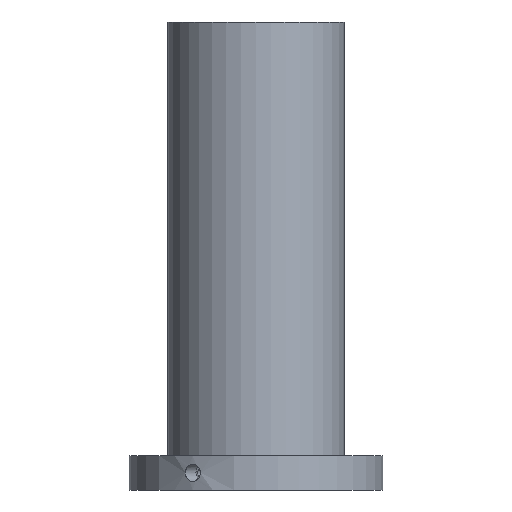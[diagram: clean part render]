
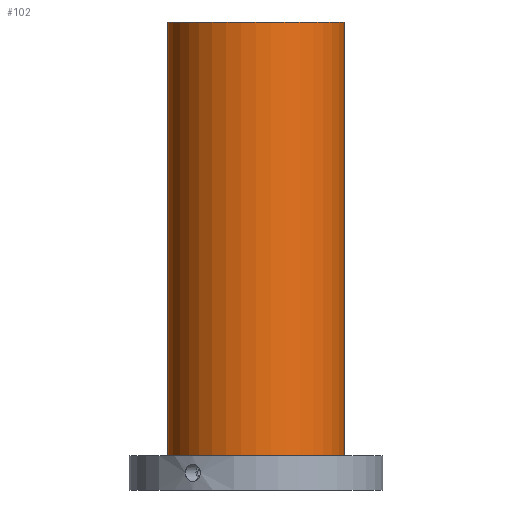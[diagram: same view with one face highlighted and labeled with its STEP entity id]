
A CAD part, front view. The second image highlights one B-rep face of the part: STEP entity #102.
In plain terms, the highlighted cylindrical face has radius 41 mm (diameter 82 mm), a full revolution.
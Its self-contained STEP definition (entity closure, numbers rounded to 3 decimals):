
#102=ADVANCED_FACE('',(#136,#137),#119,.T.);
#119=CYLINDRICAL_SURFACE('',#371,41.);
#136=FACE_BOUND('',#188,.T.);
#137=FACE_BOUND('',#189,.T.);
#188=EDGE_LOOP('',(#240));
#189=EDGE_LOOP('',(#241));
#240=ORIENTED_EDGE('',*,*,#318,.F.);
#241=ORIENTED_EDGE('',*,*,#319,.T.);
#292=VERTEX_POINT('',#557);
#293=VERTEX_POINT('',#559);
#318=EDGE_CURVE('',#292,#292,#343,.T.);
#319=EDGE_CURVE('',#293,#293,#344,.T.);
#343=CIRCLE('',#369,41.);
#344=CIRCLE('',#370,41.);
#369=AXIS2_PLACEMENT_3D('',#556,#415,#416);
#370=AXIS2_PLACEMENT_3D('',#558,#417,#418);
#371=AXIS2_PLACEMENT_3D('',#560,#419,#420);
#415=DIRECTION('',(0.,0.,-1.));
#416=DIRECTION('',(1.,0.,0.));
#417=DIRECTION('',(0.,0.,-1.));
#418=DIRECTION('',(1.,0.,0.));
#419=DIRECTION('',(0.,0.,-1.));
#420=DIRECTION('',(-1.,0.,0.));
#556=CARTESIAN_POINT('',(0.,0.,16.));
#557=CARTESIAN_POINT('',(41.,0.,16.));
#558=CARTESIAN_POINT('',(0.,0.,218.));
#559=CARTESIAN_POINT('',(41.,0.,218.));
#560=CARTESIAN_POINT('',(0.,0.,218.));
